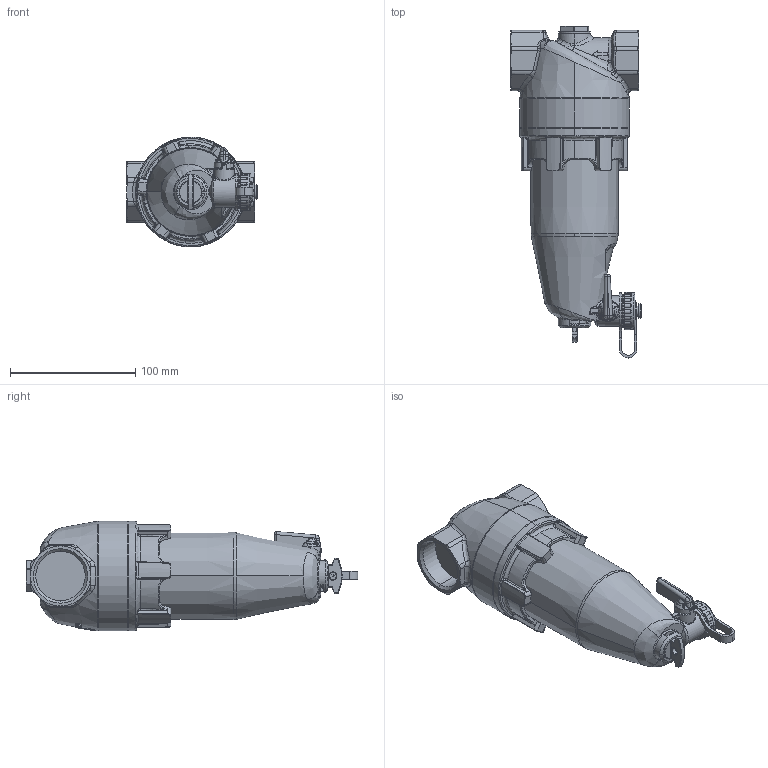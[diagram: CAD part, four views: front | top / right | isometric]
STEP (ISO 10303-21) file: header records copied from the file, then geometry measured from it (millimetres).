
FILE_DESCRIPTION (( 'STEP AP214' ), '1' );
FILE_NAME ('ADS181.STEP', '2023-03-20T07:01:57', ( '' ), ( '' ), 'SwSTEP 2.0', 'SolidWorks 2022', '' );
FILE_SCHEMA (( 'AUTOMOTIVE_DESIGN' ));
Length unit declared in the file: millimetre
Products named in the file (1): ADS181
Bounding box: 104.2 x 264.75 x 87.54 mm (x, y, z)
Volume: 893856.7 mm3; surface area: 105375.7 mm2
Topology: 2 solids, 9 shells, 1255 faces, 3192 edges, 1954 vertices
Faces by surface type: bspline 538, plane 337, cylinder 251, cone 129
Entity records: 63533 total; most frequent: CARTESIAN_POINT 37320, ORIENTED_EDGE 6320, DIRECTION 4239, EDGE_CURVE 3160, VERTEX_POINT 1954, AXIS2_PLACEMENT_3D 1593, EDGE_LOOP 1304, ADVANCED_FACE 1255
